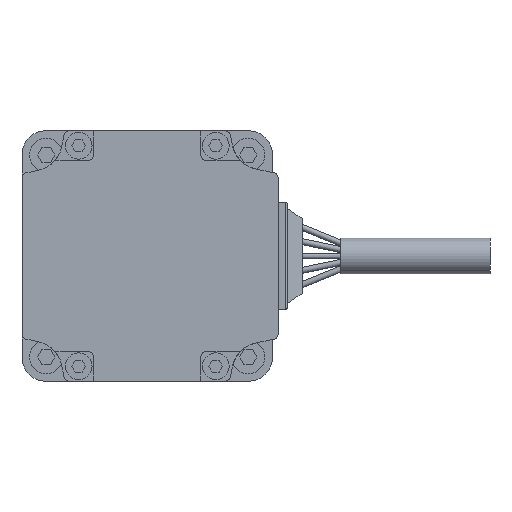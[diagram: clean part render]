
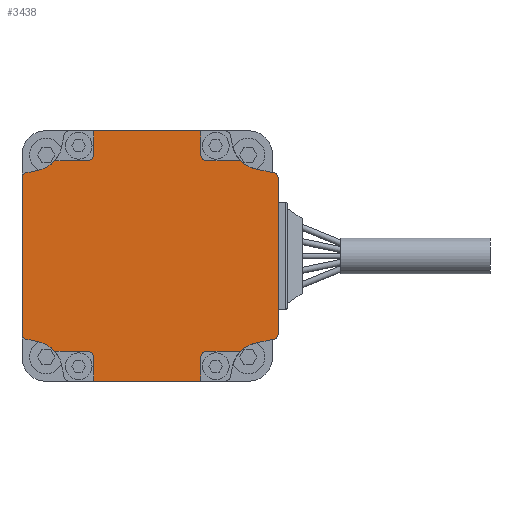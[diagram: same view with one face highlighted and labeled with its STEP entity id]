
A CAD part, left-side view. The second image highlights one B-rep face of the part: STEP entity #3438.
In plain terms, the highlighted planar face has unit normal (-1, 0, 0).
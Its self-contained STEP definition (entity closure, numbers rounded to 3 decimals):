
#77=PLANE('',#3699);
#225=LINE('',#5177,#565);
#277=LINE('',#5306,#617);
#278=LINE('',#5311,#618);
#279=LINE('',#5316,#619);
#280=LINE('',#5320,#620);
#281=LINE('',#5324,#621);
#282=LINE('',#5326,#622);
#283=LINE('',#5328,#623);
#284=LINE('',#5332,#624);
#285=LINE('',#5336,#625);
#286=LINE('',#5340,#626);
#287=LINE('',#5344,#627);
#288=LINE('',#5348,#628);
#289=LINE('',#5352,#629);
#290=LINE('',#5354,#630);
#291=LINE('',#5356,#631);
#565=VECTOR('',#4145,1000.);
#617=VECTOR('',#4231,1000.);
#618=VECTOR('',#4234,1000.);
#619=VECTOR('',#4239,1000.);
#620=VECTOR('',#4242,1000.);
#621=VECTOR('',#4245,1000.);
#622=VECTOR('',#4246,1000.);
#623=VECTOR('',#4247,1000.);
#624=VECTOR('',#4250,1000.);
#625=VECTOR('',#4253,1000.);
#626=VECTOR('',#4256,1000.);
#627=VECTOR('',#4259,1000.);
#628=VECTOR('',#4262,1000.);
#629=VECTOR('',#4265,1000.);
#630=VECTOR('',#4266,1000.);
#631=VECTOR('',#4267,1000.);
#1058=ORIENTED_EDGE('',*,*,#1956,.T.);
#1059=ORIENTED_EDGE('',*,*,#1957,.T.);
#1060=ORIENTED_EDGE('',*,*,#1958,.F.);
#1061=ORIENTED_EDGE('',*,*,#1959,.F.);
#1062=ORIENTED_EDGE('',*,*,#1896,.F.);
#1063=ORIENTED_EDGE('',*,*,#1960,.F.);
#1064=ORIENTED_EDGE('',*,*,#1961,.F.);
#1065=ORIENTED_EDGE('',*,*,#1962,.T.);
#1066=ORIENTED_EDGE('',*,*,#1963,.T.);
#1067=ORIENTED_EDGE('',*,*,#1964,.T.);
#1068=ORIENTED_EDGE('',*,*,#1965,.T.);
#1069=ORIENTED_EDGE('',*,*,#1966,.F.);
#1070=ORIENTED_EDGE('',*,*,#1967,.T.);
#1071=ORIENTED_EDGE('',*,*,#1968,.T.);
#1072=ORIENTED_EDGE('',*,*,#1969,.T.);
#1073=ORIENTED_EDGE('',*,*,#1970,.T.);
#1074=ORIENTED_EDGE('',*,*,#1971,.F.);
#1075=ORIENTED_EDGE('',*,*,#1972,.F.);
#1076=ORIENTED_EDGE('',*,*,#1973,.F.);
#1077=ORIENTED_EDGE('',*,*,#1974,.F.);
#1078=ORIENTED_EDGE('',*,*,#1975,.F.);
#1079=ORIENTED_EDGE('',*,*,#1976,.T.);
#1080=ORIENTED_EDGE('',*,*,#1977,.T.);
#1081=ORIENTED_EDGE('',*,*,#1978,.T.);
#1082=ORIENTED_EDGE('',*,*,#1979,.T.);
#1083=ORIENTED_EDGE('',*,*,#1980,.F.);
#1084=ORIENTED_EDGE('',*,*,#1981,.T.);
#1085=ORIENTED_EDGE('',*,*,#1982,.T.);
#1896=EDGE_CURVE('',#2363,#2364,#225,.T.);
#1956=EDGE_CURVE('',#2423,#2424,#277,.T.);
#1957=EDGE_CURVE('',#2424,#2425,#2671,.T.);
#1958=EDGE_CURVE('',#2426,#2425,#278,.T.);
#1959=EDGE_CURVE('',#2364,#2426,#2672,.T.);
#1960=EDGE_CURVE('',#2427,#2363,#2673,.T.);
#1961=EDGE_CURVE('',#2428,#2427,#279,.T.);
#1962=EDGE_CURVE('',#2428,#2429,#2674,.T.);
#1963=EDGE_CURVE('',#2429,#2430,#280,.T.);
#1964=EDGE_CURVE('',#2430,#2431,#2675,.T.);
#1965=EDGE_CURVE('',#2431,#2432,#281,.T.);
#1966=EDGE_CURVE('',#2433,#2432,#282,.T.);
#1967=EDGE_CURVE('',#2433,#2434,#283,.T.);
#1968=EDGE_CURVE('',#2434,#2435,#2676,.T.);
#1969=EDGE_CURVE('',#2435,#2436,#284,.T.);
#1970=EDGE_CURVE('',#2436,#2437,#2677,.T.);
#1971=EDGE_CURVE('',#2438,#2437,#285,.T.);
#1972=EDGE_CURVE('',#2439,#2438,#2678,.T.);
#1973=EDGE_CURVE('',#2440,#2439,#286,.T.);
#1974=EDGE_CURVE('',#2441,#2440,#2679,.T.);
#1975=EDGE_CURVE('',#2442,#2441,#287,.T.);
#1976=EDGE_CURVE('',#2442,#2443,#2680,.T.);
#1977=EDGE_CURVE('',#2443,#2444,#288,.T.);
#1978=EDGE_CURVE('',#2444,#2445,#2681,.T.);
#1979=EDGE_CURVE('',#2445,#2446,#289,.T.);
#1980=EDGE_CURVE('',#2447,#2446,#290,.T.);
#1981=EDGE_CURVE('',#2447,#2448,#291,.T.);
#1982=EDGE_CURVE('',#2448,#2423,#2682,.T.);
#2363=VERTEX_POINT('',#5178);
#2364=VERTEX_POINT('',#5179);
#2423=VERTEX_POINT('',#5307);
#2424=VERTEX_POINT('',#5308);
#2425=VERTEX_POINT('',#5310);
#2426=VERTEX_POINT('',#5312);
#2427=VERTEX_POINT('',#5315);
#2428=VERTEX_POINT('',#5317);
#2429=VERTEX_POINT('',#5319);
#2430=VERTEX_POINT('',#5321);
#2431=VERTEX_POINT('',#5323);
#2432=VERTEX_POINT('',#5325);
#2433=VERTEX_POINT('',#5327);
#2434=VERTEX_POINT('',#5329);
#2435=VERTEX_POINT('',#5331);
#2436=VERTEX_POINT('',#5333);
#2437=VERTEX_POINT('',#5335);
#2438=VERTEX_POINT('',#5337);
#2439=VERTEX_POINT('',#5339);
#2440=VERTEX_POINT('',#5341);
#2441=VERTEX_POINT('',#5343);
#2442=VERTEX_POINT('',#5345);
#2443=VERTEX_POINT('',#5347);
#2444=VERTEX_POINT('',#5349);
#2445=VERTEX_POINT('',#5351);
#2446=VERTEX_POINT('',#5353);
#2447=VERTEX_POINT('',#5355);
#2448=VERTEX_POINT('',#5357);
#2671=CIRCLE('',#3700,5.);
#2672=CIRCLE('',#3701,1.);
#2673=CIRCLE('',#3702,1.);
#2674=CIRCLE('',#3703,5.);
#2675=CIRCLE('',#3704,1.);
#2676=CIRCLE('',#3705,1.);
#2677=CIRCLE('',#3706,5.);
#2678=CIRCLE('',#3707,1.);
#2679=CIRCLE('',#3708,1.);
#2680=CIRCLE('',#3709,5.);
#2681=CIRCLE('',#3710,1.);
#2682=CIRCLE('',#3711,1.);
#2845=EDGE_LOOP('',(#1058,#1059,#1060,#1061,#1062,#1063,#1064,#1065,#1066,
#1067,#1068,#1069,#1070,#1071,#1072,#1073,#1074,#1075,#1076,#1077,#1078,
#1079,#1080,#1081,#1082,#1083,#1084,#1085));
#3129=FACE_BOUND('',#2845,.T.);
#3438=ADVANCED_FACE('',(#3129),#77,.F.);
#3699=AXIS2_PLACEMENT_3D('',#5305,#4229,#4230);
#3700=AXIS2_PLACEMENT_3D('',#5309,#4232,#4233);
#3701=AXIS2_PLACEMENT_3D('',#5313,#4235,#4236);
#3702=AXIS2_PLACEMENT_3D('',#5314,#4237,#4238);
#3703=AXIS2_PLACEMENT_3D('',#5318,#4240,#4241);
#3704=AXIS2_PLACEMENT_3D('',#5322,#4243,#4244);
#3705=AXIS2_PLACEMENT_3D('',#5330,#4248,#4249);
#3706=AXIS2_PLACEMENT_3D('',#5334,#4251,#4252);
#3707=AXIS2_PLACEMENT_3D('',#5338,#4254,#4255);
#3708=AXIS2_PLACEMENT_3D('',#5342,#4257,#4258);
#3709=AXIS2_PLACEMENT_3D('',#5346,#4260,#4261);
#3710=AXIS2_PLACEMENT_3D('',#5350,#4263,#4264);
#3711=AXIS2_PLACEMENT_3D('',#5358,#4268,#4269);
#4145=DIRECTION('',(0.,0.,-1.));
#4229=DIRECTION('',(1.,0.,0.));
#4230=DIRECTION('',(0.,0.,-1.));
#4231=DIRECTION('',(0.,-1.,0.));
#4232=DIRECTION('',(1.,0.,0.));
#4233=DIRECTION('',(0.,0.,-1.));
#4234=DIRECTION('',(0.,0.978,-0.208));
#4235=DIRECTION('',(1.,0.,0.));
#4236=DIRECTION('',(0.,0.,-1.));
#4237=DIRECTION('',(1.,0.,0.));
#4238=DIRECTION('',(0.,0.,-1.));
#4239=DIRECTION('',(0.,-0.978,-0.208));
#4240=DIRECTION('',(1.,0.,0.));
#4241=DIRECTION('',(0.,0.,-1.));
#4242=DIRECTION('',(0.,1.,0.));
#4243=DIRECTION('',(1.,0.,0.));
#4244=DIRECTION('',(0.,0.,-1.));
#4245=DIRECTION('',(0.,0.,1.));
#4246=DIRECTION('',(0.,-1.,0.));
#4247=DIRECTION('',(0.,0.,-1.));
#4248=DIRECTION('',(1.,0.,0.));
#4249=DIRECTION('',(0.,0.,-1.));
#4250=DIRECTION('',(0.,1.,0.));
#4251=DIRECTION('',(1.,0.,0.));
#4252=DIRECTION('',(0.,0.,-1.));
#4253=DIRECTION('',(0.,-0.978,0.208));
#4254=DIRECTION('',(1.,0.,0.));
#4255=DIRECTION('',(0.,0.,-1.));
#4256=DIRECTION('',(0.,0.,1.));
#4257=DIRECTION('',(1.,0.,0.));
#4258=DIRECTION('',(0.,0.,-1.));
#4259=DIRECTION('',(0.,0.978,0.208));
#4260=DIRECTION('',(1.,0.,0.));
#4261=DIRECTION('',(0.,0.,-1.));
#4262=DIRECTION('',(0.,-1.,0.));
#4263=DIRECTION('',(1.,0.,0.));
#4264=DIRECTION('',(0.,0.,-1.));
#4265=DIRECTION('',(0.,0.,-1.));
#4266=DIRECTION('',(0.,1.,0.));
#4267=DIRECTION('',(0.,0.,1.));
#4268=DIRECTION('',(1.,0.,0.));
#4269=DIRECTION('',(0.,0.,-1.));
#5177=CARTESIAN_POINT('',(-42.,-22.,17.));
#5178=CARTESIAN_POINT('',(-42.,-22.,13.));
#5179=CARTESIAN_POINT('',(-42.,-22.,-13.));
#5305=CARTESIAN_POINT('',(-42.,-18.,17.));
#5306=CARTESIAN_POINT('',(-42.,-10.,-16.));
#5307=CARTESIAN_POINT('',(-42.,-10.,-16.));
#5308=CARTESIAN_POINT('',(-42.,-15.64,-16.));
#5309=CARTESIAN_POINT('',(-42.,-19.22,-19.49));
#5310=CARTESIAN_POINT('',(-42.,-18.181,-14.599));
#5311=CARTESIAN_POINT('',(-42.,-21.,-14.));
#5312=CARTESIAN_POINT('',(-42.,-21.,-14.));
#5313=CARTESIAN_POINT('',(-42.,-21.,-13.));
#5314=CARTESIAN_POINT('',(-42.,-21.,13.));
#5315=CARTESIAN_POINT('',(-42.,-21.,14.));
#5316=CARTESIAN_POINT('',(-42.,-18.181,14.599));
#5317=CARTESIAN_POINT('',(-42.,-18.181,14.599));
#5318=CARTESIAN_POINT('',(-42.,-19.22,19.49));
#5319=CARTESIAN_POINT('',(-42.,-15.64,16.));
#5320=CARTESIAN_POINT('',(-42.,-16.,16.));
#5321=CARTESIAN_POINT('',(-42.,-10.,16.));
#5322=CARTESIAN_POINT('',(-42.,-10.,17.));
#5323=CARTESIAN_POINT('',(-42.,-9.,17.));
#5324=CARTESIAN_POINT('',(-42.,-9.,17.));
#5325=CARTESIAN_POINT('',(-42.,-9.,21.));
#5326=CARTESIAN_POINT('',(-42.,17.,21.));
#5327=CARTESIAN_POINT('',(-42.,9.,21.));
#5328=CARTESIAN_POINT('',(-42.,9.,21.));
#5329=CARTESIAN_POINT('',(-42.,9.,17.));
#5330=CARTESIAN_POINT('',(-42.,10.,17.));
#5331=CARTESIAN_POINT('',(-42.,10.,16.));
#5332=CARTESIAN_POINT('',(-42.,10.,16.));
#5333=CARTESIAN_POINT('',(-42.,15.483,16.));
#5334=CARTESIAN_POINT('',(-42.,19.267,19.267));
#5335=CARTESIAN_POINT('',(-42.,18.228,14.377));
#5336=CARTESIAN_POINT('',(-42.,20.,14.));
#5337=CARTESIAN_POINT('',(-42.,20.,14.));
#5338=CARTESIAN_POINT('',(-42.,20.,13.));
#5339=CARTESIAN_POINT('',(-42.,21.,13.));
#5340=CARTESIAN_POINT('',(-42.,21.,-17.));
#5341=CARTESIAN_POINT('',(-42.,21.,-13.));
#5342=CARTESIAN_POINT('',(-42.,20.,-13.));
#5343=CARTESIAN_POINT('',(-42.,20.,-14.));
#5344=CARTESIAN_POINT('',(-42.,18.228,-14.377));
#5345=CARTESIAN_POINT('',(-42.,18.228,-14.377));
#5346=CARTESIAN_POINT('',(-42.,19.267,-19.267));
#5347=CARTESIAN_POINT('',(-42.,15.483,-16.));
#5348=CARTESIAN_POINT('',(-42.,16.,-16.));
#5349=CARTESIAN_POINT('',(-42.,10.,-16.));
#5350=CARTESIAN_POINT('',(-42.,10.,-17.));
#5351=CARTESIAN_POINT('',(-42.,9.,-17.));
#5352=CARTESIAN_POINT('',(-42.,9.,-17.));
#5353=CARTESIAN_POINT('',(-42.,9.,-21.));
#5354=CARTESIAN_POINT('',(-42.,-18.,-21.));
#5355=CARTESIAN_POINT('',(-42.,-9.,-21.));
#5356=CARTESIAN_POINT('',(-42.,-9.,-21.));
#5357=CARTESIAN_POINT('',(-42.,-9.,-17.));
#5358=CARTESIAN_POINT('',(-42.,-10.,-17.));
